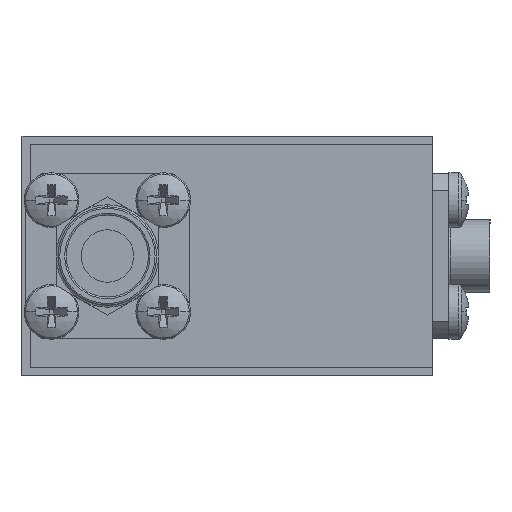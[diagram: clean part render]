
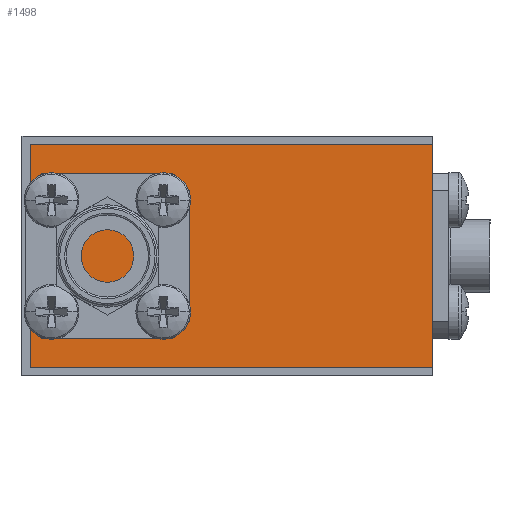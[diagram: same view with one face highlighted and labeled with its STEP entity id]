
A CAD part, left-side view. The second image highlights one B-rep face of the part: STEP entity #1498.
In plain terms, the highlighted planar face has unit normal (-1, 0, 0) as drawn and (1, 0, 0) by its records, which use the part's own axes.
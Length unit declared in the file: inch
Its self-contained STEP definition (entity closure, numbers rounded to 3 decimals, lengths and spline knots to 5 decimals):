
#14 = DIRECTION ( 'NONE',  ( 0., 1., 0. ) ) ;
#316 = LINE ( 'NONE', #3105, #1282 ) ;
#426 = CARTESIAN_POINT ( 'NONE',  ( 0.79, -0.48031, -0.34 ) ) ;
#444 = LINE ( 'NONE', #3039, #941 ) ;
#485 = CARTESIAN_POINT ( 'NONE',  ( 0.79, -0.48031, 0.34 ) ) ;
#528 = LINE ( 'NONE', #1019, #1864 ) ;
#582 = AXIS2_PLACEMENT_3D ( 'NONE', #3661, #4307, #3324 ) ;
#686 = DIRECTION ( 'NONE',  ( 0., 0., -1. ) ) ;
#941 = VECTOR ( 'NONE', #686, 39.37008 ) ;
#1019 = CARTESIAN_POINT ( 'NONE',  ( 0.79, 0.74469, -0.34 ) ) ;
#1230 = VERTEX_POINT ( 'NONE', #1525 ) ;
#1282 = VECTOR ( 'NONE', #1822, 39.37008 ) ;
#1370 = EDGE_CURVE ( 'NONE', #3718, #2133, #316, .T. ) ;
#1372 = EDGE_CURVE ( 'NONE', #3718, #2684, #1810, .T. ) ;
#1498 = ADVANCED_FACE ( 'NONE', ( #4042 ), #3005, .F. ) ;
#1525 = CARTESIAN_POINT ( 'NONE',  ( 0.79, 0.74469, -0.34 ) ) ;
#1601 = ORIENTED_EDGE ( 'NONE', *, *, #1370, .F. ) ;
#1633 = EDGE_CURVE ( 'NONE', #2684, #1230, #528, .T. ) ;
#1810 = LINE ( 'NONE', #2757, #2025 ) ;
#1822 = DIRECTION ( 'NONE',  ( 0., 1., 0. ) ) ;
#1864 = VECTOR ( 'NONE', #14, 39.37008 ) ;
#2025 = VECTOR ( 'NONE', #2857, 39.37008 ) ;
#2133 = VERTEX_POINT ( 'NONE', #4249 ) ;
#2495 = EDGE_LOOP ( 'NONE', ( #2745, #2580, #1601, #4078 ) ) ;
#2580 = ORIENTED_EDGE ( 'NONE', *, *, #3480, .F. ) ;
#2684 = VERTEX_POINT ( 'NONE', #426 ) ;
#2745 = ORIENTED_EDGE ( 'NONE', *, *, #1633, .T. ) ;
#2757 = CARTESIAN_POINT ( 'NONE',  ( 0.79, -0.48031, 0.34 ) ) ;
#2857 = DIRECTION ( 'NONE',  ( 0., 0., -1. ) ) ;
#3005 = PLANE ( 'NONE',  #582 ) ;
#3039 = CARTESIAN_POINT ( 'NONE',  ( 0.79, 0.74469, 0.34 ) ) ;
#3105 = CARTESIAN_POINT ( 'NONE',  ( 0.79, 0.74469, 0.34 ) ) ;
#3324 = DIRECTION ( 'NONE',  ( 0., -1., 0. ) ) ;
#3480 = EDGE_CURVE ( 'NONE', #2133, #1230, #444, .T. ) ;
#3661 = CARTESIAN_POINT ( 'NONE',  ( 0.79, 0.74469, 0.34 ) ) ;
#3718 = VERTEX_POINT ( 'NONE', #485 ) ;
#4042 = FACE_OUTER_BOUND ( 'NONE', #2495, .T. ) ;
#4078 = ORIENTED_EDGE ( 'NONE', *, *, #1372, .T. ) ;
#4249 = CARTESIAN_POINT ( 'NONE',  ( 0.79, 0.74469, 0.34 ) ) ;
#4307 = DIRECTION ( 'NONE',  ( -1., 0., 0. ) ) ;
